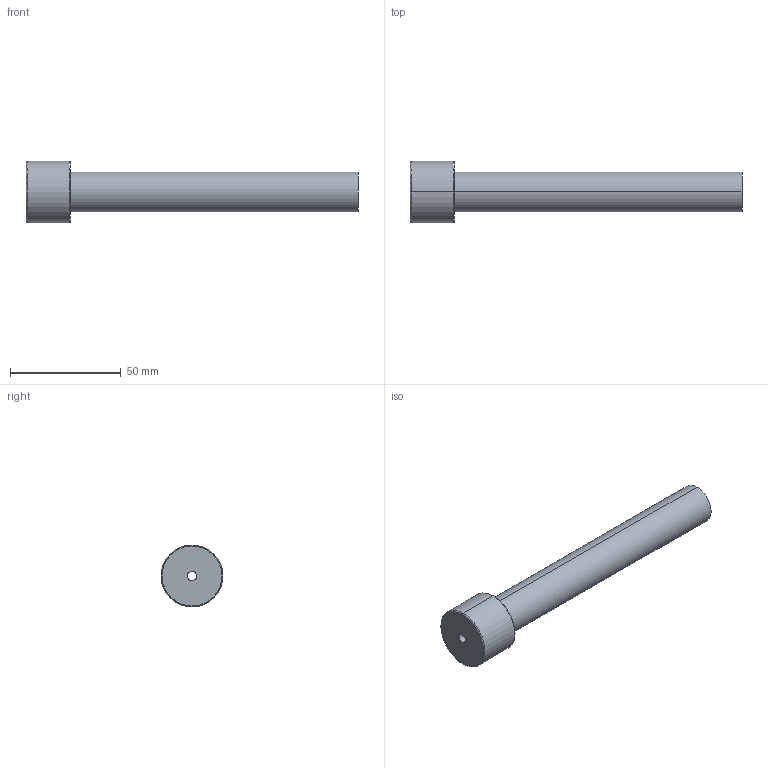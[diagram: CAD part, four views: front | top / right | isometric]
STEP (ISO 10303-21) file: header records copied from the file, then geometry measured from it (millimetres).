
FILE_DESCRIPTION(('CATIA V5 STEP Exchange'),'2;1');
FILE_NAME('C:\Users\Utente\Desktop\IO LAVORO\3D X SITO CF\X SITO\PLASTICA\3D files 367\367F-18X150.stp','2021-03-24T16:19:06+00:00',('none'),('none'),'CATIA Version 5 Release 20 GA (IN-10)','CATIA V5 STEP AP203','none');
FILE_SCHEMA(('CONFIG_CONTROL_DESIGN'));
Length unit declared in the file: millimetre
Products named in the file (1): 367F-18X150
Bounding box: 150 x 28 x 28 mm (x, y, z)
Volume: 36805.3 mm3; surface area: 14052.2 mm2
Topology: 1 solids, 1 shells, 13 faces, 42 edges, 32 vertices
Faces by surface type: torus 4, cylinder 4, plane 3, cone 2
Entity records: 614 total; most frequent: CARTESIAN_POINT 200, ORIENTED_EDGE 84, DIRECTION 60, AXIS2_PLACEMENT_3D 42, EDGE_CURVE 42, VERTEX_POINT 32, CIRCLE 28, EDGE_LOOP 16
